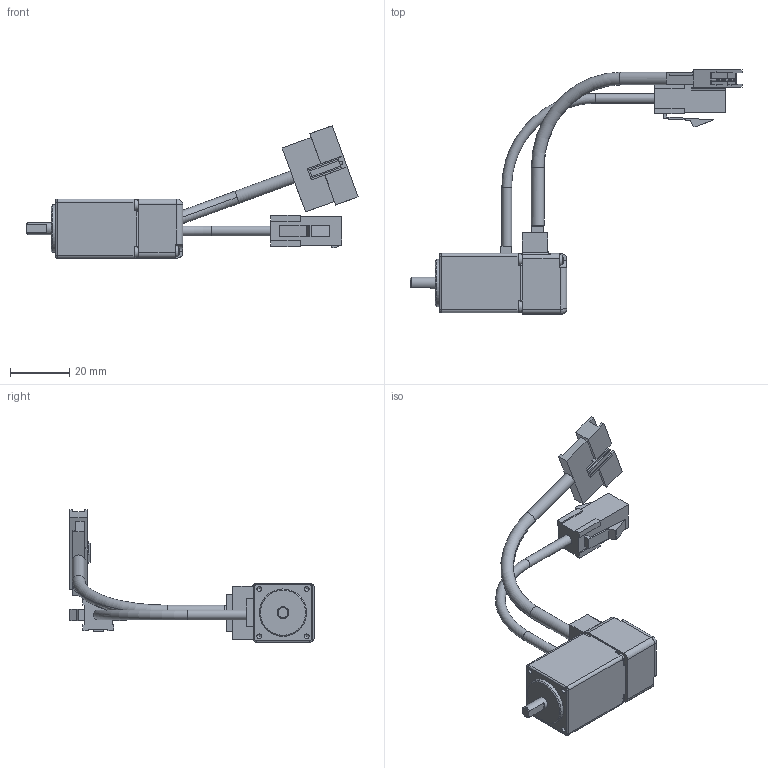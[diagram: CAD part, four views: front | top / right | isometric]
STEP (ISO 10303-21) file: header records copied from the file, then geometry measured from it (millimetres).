
FILE_DESCRIPTION(/* description */ (''),/* implementation_level */ '2;1');
FILE_NAME(/* name */ '\\EMN0D5F01\rp_inventor\RP Mechanical Design\Wiley\Updated Models\eCLM-P082F.stp',/* time_stamp */ '2016-10-27T14:32:46-07:00',/* author */ ('JDB'),/* organization */ ('Parker Hannifin Corp'),/* preprocessor_version */ 'ST-DEVELOPER v15.2',/* originating_system */ 'Autodesk Inventor 2014',/* authorisation */ '');
FILE_SCHEMA (('CONFIG_CONTROL_DESIGN'));
Length unit declared in the file: inch
Products named in the file (1): eCLM-P082F_sw
Bounding box: 112.19 x 82.7 x 44.79 mm (x, y, z)
Volume: 20163.7 mm3; surface area: 14686.6 mm2
Topology: 1 solids, 1 shells, 548 faces, 1483 edges, 960 vertices
Faces by surface type: plane 344, cylinder 139, cone 28, bspline 26, sphere 6, torus 5
Full cylindrical faces by diameter (mm): 1 x10, 1.5 x4, 1.6 x4, 1.778 x2, 2.3 x2, 2.5 x4, 3.3 x2, 4 x2, 4.3 x4, 4.5 x1, 5 x3, 16 x1
Entity records: 17850 total; most frequent: CARTESIAN_POINT 4256, DIRECTION 2800, ORIENTED_EDGE 2780, EDGE_CURVE 1390, AXIS2_PLACEMENT_3D 955, VERTEX_POINT 936, LINE 890, VECTOR 890
